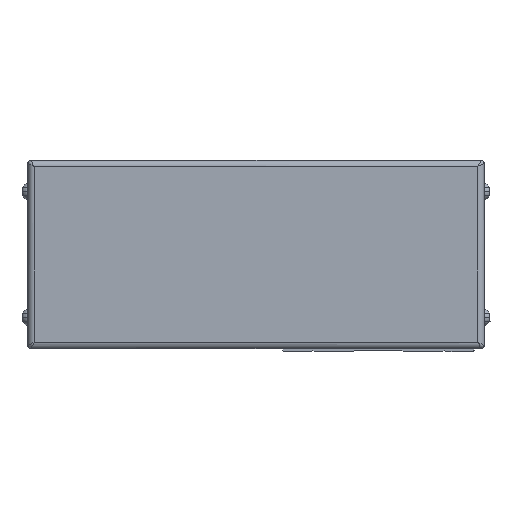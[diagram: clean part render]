
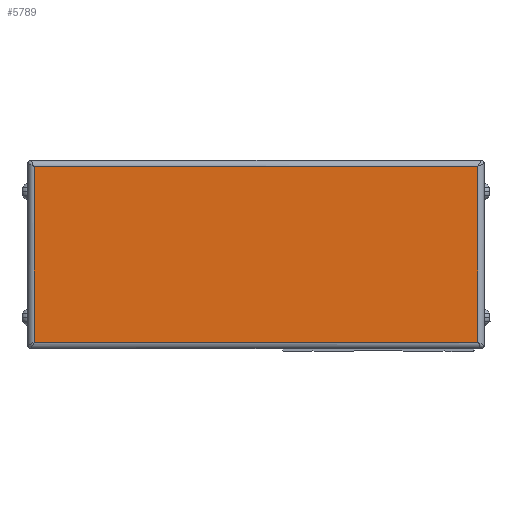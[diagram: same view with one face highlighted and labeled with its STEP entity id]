
A CAD part, left-side view. The second image highlights one B-rep face of the part: STEP entity #5789.
In plain terms, the highlighted planar face has unit normal (-1, 0, 0).
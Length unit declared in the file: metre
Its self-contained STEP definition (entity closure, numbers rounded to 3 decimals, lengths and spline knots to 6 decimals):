
#5789=ADVANCED_FACE('',(#11811),#11812,.T.);
#11811=FACE_OUTER_BOUND('',#19396,.T.);
#11812=PLANE('',#19397);
#19396=EDGE_LOOP('',(#35766,#35767,#35768,#35769));
#19397=AXIS2_PLACEMENT_3D('',#35770,#35771,#35772);
#35766=ORIENTED_EDGE('',*,*,#47134,.T.);
#35767=ORIENTED_EDGE('',*,*,#44161,.T.);
#35768=ORIENTED_EDGE('',*,*,#47135,.T.);
#35769=ORIENTED_EDGE('',*,*,#47136,.T.);
#35770=CARTESIAN_POINT('',(-0.054,0.039,-0.001));
#35771=DIRECTION('',(-1.0,0.0,0.0));
#35772=DIRECTION('',(0.0,0.,1.0));
#44161=EDGE_CURVE('',#52468,#52473,#52475,.T.);
#47134=EDGE_CURVE('',#56772,#52468,#56773,.T.);
#47135=EDGE_CURVE('',#52473,#56774,#56775,.T.);
#47136=EDGE_CURVE('',#56774,#56772,#56776,.T.);
#52468=VERTEX_POINT('',#64334);
#52473=VERTEX_POINT('',#64355);
#52475=LINE('',#64373,#64374);
#56772=VERTEX_POINT('',#70681);
#56773=LINE('',#70682,#70683);
#56774=VERTEX_POINT('',#70684);
#56775=LINE('',#70685,#70686);
#56776=LINE('',#70687,#70688);
#64334=CARTESIAN_POINT('',(-0.054,0.1097,0.027));
#64355=CARTESIAN_POINT('',(-0.054,0.1097,-0.029));
#64373=CARTESIAN_POINT('',(-0.054,0.1097,-0.001));
#64374=VECTOR('',#75819,1.0);
#70681=CARTESIAN_POINT('',(-0.054,-0.0317,0.027));
#70682=CARTESIAN_POINT('',(-0.054,0.039,0.027));
#70683=VECTOR('',#79065,1.0);
#70684=CARTESIAN_POINT('',(-0.054,-0.0317,-0.029));
#70685=CARTESIAN_POINT('',(-0.054,0.039,-0.029));
#70686=VECTOR('',#79066,1.0);
#70687=CARTESIAN_POINT('',(-0.054,-0.0317,-0.001));
#70688=VECTOR('',#79067,1.0);
#75819=DIRECTION('',(0.0,0.,-1.0));
#79065=DIRECTION('',(0.0,1.0,0.));
#79066=DIRECTION('',(0.0,-1.0,0.));
#79067=DIRECTION('',(0.0,0.,1.0));
